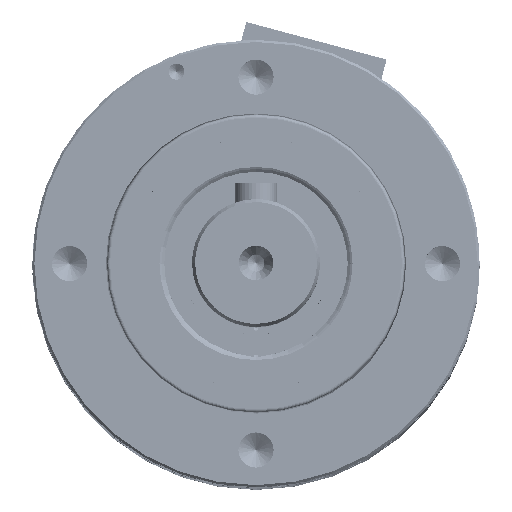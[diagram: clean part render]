
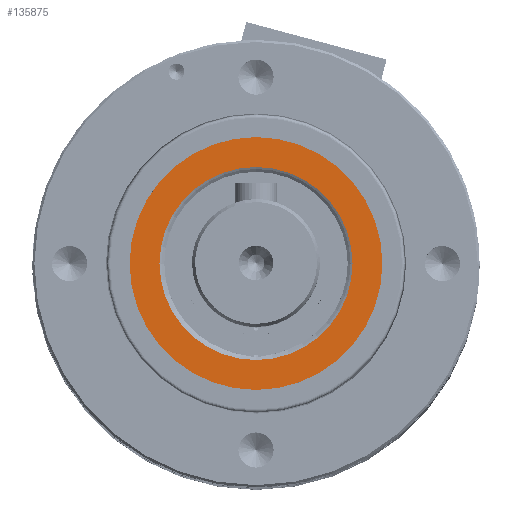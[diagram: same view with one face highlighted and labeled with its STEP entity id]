
A CAD part, top view. The second image highlights one B-rep face of the part: STEP entity #135875.
In plain terms, the highlighted planar face has unit normal (0, 0, 1).
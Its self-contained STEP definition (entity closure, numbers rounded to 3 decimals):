
#186 = VERTEX_POINT ( 'NONE', #156322 ) ;
#25690 = CARTESIAN_POINT ( 'NONE',  ( 5.131, -8.599, 123.885 ) ) ;
#27548 = DIRECTION ( 'NONE',  ( 0., 0., -1. ) ) ;
#28323 = EDGE_CURVE ( 'NONE', #246827, #38792, #263964, .T. ) ;
#38738 = AXIS2_PLACEMENT_3D ( 'NONE', #241572, #354407, #321938 ) ;
#38792 = VERTEX_POINT ( 'NONE', #39976 ) ;
#39976 = CARTESIAN_POINT ( 'NONE',  ( -3.929, -8.599, 123.885 ) ) ;
#57933 = FACE_BOUND ( 'NONE', #120102, .T. ) ;
#57958 = DIRECTION ( 'NONE',  ( 1., 0., 0. ) ) ;
#63539 = VERTEX_POINT ( 'NONE', #114772 ) ;
#79864 = DIRECTION ( 'NONE',  ( 0., 0., -1. ) ) ;
#90242 = EDGE_LOOP ( 'NONE', ( #357600, #100520 ) ) ;
#100520 = ORIENTED_EDGE ( 'NONE', *, *, #303152, .T. ) ;
#111332 = AXIS2_PLACEMENT_3D ( 'NONE', #129054, #130975, #247544 ) ;
#114772 = CARTESIAN_POINT ( 'NONE',  ( 16.996, -8.599, 123.885 ) ) ;
#120102 = EDGE_LOOP ( 'NONE', ( #166743, #291192 ) ) ;
#129054 = CARTESIAN_POINT ( 'NONE',  ( 5.131, -8.599, 123.885 ) ) ;
#130975 = DIRECTION ( 'NONE',  ( 0., 0., 1. ) ) ;
#135875 = ADVANCED_FACE ( 'NONE', ( #57933, #230134 ), #344850, .F. ) ;
#144172 = DIRECTION ( 'NONE',  ( 0., 0., -1. ) ) ;
#153086 = EDGE_CURVE ( 'NONE', #246827, #38792, #240920, .T. ) ;
#156322 = CARTESIAN_POINT ( 'NONE',  ( -6.734, -8.599, 123.885 ) ) ;
#158617 = CIRCLE ( 'NONE', #310977, 11.865 ) ;
#166743 = ORIENTED_EDGE ( 'NONE', *, *, #28323, .F. ) ;
#168014 = DIRECTION ( 'NONE',  ( 1., 0., 0. ) ) ;
#171780 = CARTESIAN_POINT ( 'NONE',  ( 5.131, -8.599, 123.885 ) ) ;
#176568 = CARTESIAN_POINT ( 'NONE',  ( 5.131, -8.599, 123.885 ) ) ;
#203600 = CIRCLE ( 'NONE', #38738, 11.865 ) ;
#230134 = FACE_OUTER_BOUND ( 'NONE', #90242, .T. ) ;
#240920 = CIRCLE ( 'NONE', #344594, 9.06 ) ;
#241572 = CARTESIAN_POINT ( 'NONE',  ( 5.131, -8.599, 123.885 ) ) ;
#246827 = VERTEX_POINT ( 'NONE', #308241 ) ;
#247544 = DIRECTION ( 'NONE',  ( 1., 0., 0. ) ) ;
#263964 = CIRCLE ( 'NONE', #111332, 9.06 ) ;
#291192 = ORIENTED_EDGE ( 'NONE', *, *, #153086, .T. ) ;
#291263 = DIRECTION ( 'NONE',  ( 0., 1., 0. ) ) ;
#303152 = EDGE_CURVE ( 'NONE', #63539, #186, #203600, .T. ) ;
#308241 = CARTESIAN_POINT ( 'NONE',  ( 14.191, -8.599, 123.885 ) ) ;
#310977 = AXIS2_PLACEMENT_3D ( 'NONE', #25690, #144172, #57958 ) ;
#312446 = EDGE_CURVE ( 'NONE', #63539, #186, #158617, .T. ) ;
#321938 = DIRECTION ( 'NONE',  ( 1., 0., 0. ) ) ;
#324306 = AXIS2_PLACEMENT_3D ( 'NONE', #176568, #27548, #291263 ) ;
#344594 = AXIS2_PLACEMENT_3D ( 'NONE', #171780, #79864, #168014 ) ;
#344850 = PLANE ( 'NONE',  #324306 ) ;
#354407 = DIRECTION ( 'NONE',  ( 0., 0., 1. ) ) ;
#357600 = ORIENTED_EDGE ( 'NONE', *, *, #312446, .F. ) ;
